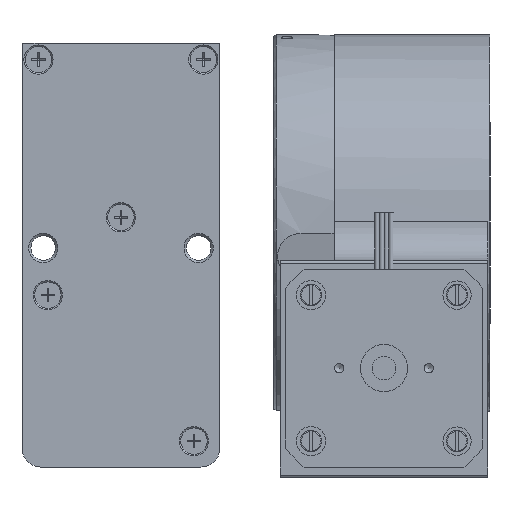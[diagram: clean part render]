
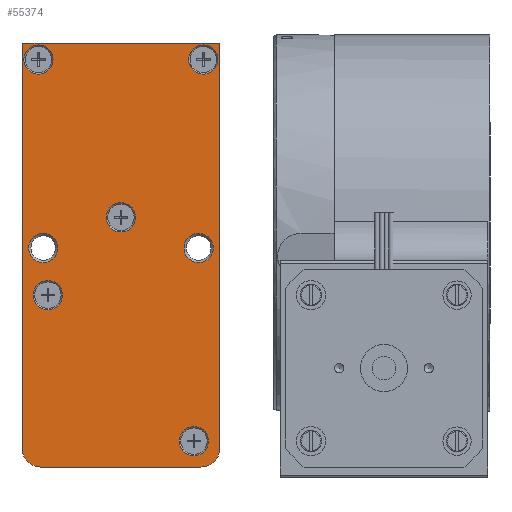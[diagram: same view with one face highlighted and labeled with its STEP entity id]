
A CAD part, left-side view. The second image highlights one B-rep face of the part: STEP entity #55374.
In plain terms, the highlighted planar face has unit normal (-1, 0, 0) as drawn and (0, -1, 0) by its records, which use the part's own axes.
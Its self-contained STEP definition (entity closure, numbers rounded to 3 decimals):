
#2351 = EDGE_LOOP ( 'NONE', ( #40019 ) ) ;
#2364 = CARTESIAN_POINT ( 'NONE',  ( 0., 0., 45. ) ) ;
#2436 = CIRCLE ( 'NONE', #57269, 4. ) ;
#2952 = CARTESIAN_POINT ( 'NONE',  ( -20.9, 0., 44.9 ) ) ;
#3313 = VERTEX_POINT ( 'NONE', #107443 ) ;
#6041 = EDGE_CURVE ( 'NONE', #103560, #49208, #2436, .T. ) ;
#7898 = DIRECTION ( 'NONE',  ( -1., 0., 0. ) ) ;
#8783 = CIRCLE ( 'NONE', #47772, 4. ) ;
#9140 = AXIS2_PLACEMENT_3D ( 'NONE', #106363, #81313, #30176 ) ;
#10581 = DIRECTION ( 'NONE',  ( 0., -1., 0. ) ) ;
#11518 = AXIS2_PLACEMENT_3D ( 'NONE', #64018, #70720, #45715 ) ;
#12540 = VERTEX_POINT ( 'NONE', #108015 ) ;
#13465 = ORIENTED_EDGE ( 'NONE', *, *, #47081, .F. ) ;
#13867 = VECTOR ( 'NONE', #104504, 1000. ) ;
#15288 = FACE_BOUND ( 'NONE', #2351, .T. ) ;
#16405 = DIRECTION ( 'NONE',  ( 0., 1., 0. ) ) ;
#16548 = EDGE_CURVE ( 'NONE', #73658, #103560, #101752, .T. ) ;
#16938 = DIRECTION ( 'NONE',  ( 0., 0., -1. ) ) ;
#16999 = CIRCLE ( 'NONE', #48955, 3.1 ) ;
#18026 = CIRCLE ( 'NONE', #103160, 3.1 ) ;
#18536 = VERTEX_POINT ( 'NONE', #87086 ) ;
#18876 = CARTESIAN_POINT ( 'NONE',  ( -15.5, 0., -5.4 ) ) ;
#19089 = VECTOR ( 'NONE', #100545, 1000. ) ;
#20657 = EDGE_CURVE ( 'NONE', #18536, #27279, #45075, .T. ) ;
#22963 = FACE_BOUND ( 'NONE', #46596, .T. ) ;
#23747 = CARTESIAN_POINT ( 'NONE',  ( 16.5, 0., 4.6 ) ) ;
#23809 = CIRCLE ( 'NONE', #11518, 3.1 ) ;
#23932 = CARTESIAN_POINT ( 'NONE',  ( 0., 0., 11.1 ) ) ;
#24075 = VERTEX_POINT ( 'NONE', #58550 ) ;
#24577 = EDGE_LOOP ( 'NONE', ( #47777 ) ) ;
#25843 = EDGE_CURVE ( 'NONE', #34945, #34945, #67508, .T. ) ;
#27227 = ORIENTED_EDGE ( 'NONE', *, *, #54404, .F. ) ;
#27279 = VERTEX_POINT ( 'NONE', #40096 ) ;
#28029 = CARTESIAN_POINT ( 'NONE',  ( -17., 0., -41. ) ) ;
#29123 = DIRECTION ( 'NONE',  ( 0., 1., 0. ) ) ;
#30176 = DIRECTION ( 'NONE',  ( 0., 0., 1. ) ) ;
#30732 = FACE_BOUND ( 'NONE', #47417, .T. ) ;
#30940 = EDGE_CURVE ( 'NONE', #64076, #3313, #83248, .T. ) ;
#31381 = ORIENTED_EDGE ( 'NONE', *, *, #81159, .F. ) ;
#31879 = LINE ( 'NONE', #79327, #62344 ) ;
#31934 = CARTESIAN_POINT ( 'NONE',  ( -16.5, 0., 1.5 ) ) ;
#32573 = VERTEX_POINT ( 'NONE', #23747 ) ;
#33861 = VERTEX_POINT ( 'NONE', #23932 ) ;
#34880 = DIRECTION ( 'NONE',  ( 0., 0., 1. ) ) ;
#34945 = VERTEX_POINT ( 'NONE', #18876 ) ;
#36106 = DIRECTION ( 'NONE',  ( 0., -1., 0. ) ) ;
#36945 = EDGE_CURVE ( 'NONE', #83593, #83593, #94728, .T. ) ;
#37352 = CARTESIAN_POINT ( 'NONE',  ( -21., 0., 0. ) ) ;
#37548 = ORIENTED_EDGE ( 'NONE', *, *, #88903, .F. ) ;
#39178 = VERTEX_POINT ( 'NONE', #76374 ) ;
#39659 = FACE_BOUND ( 'NONE', #51392, .T. ) ;
#40019 = ORIENTED_EDGE ( 'NONE', *, *, #25843, .F. ) ;
#40096 = CARTESIAN_POINT ( 'NONE',  ( -20.8, 0., 45. ) ) ;
#40775 = EDGE_CURVE ( 'NONE', #78046, #78046, #16999, .T. ) ;
#41354 = CARTESIAN_POINT ( 'NONE',  ( 17., 0., -45. ) ) ;
#42063 = AXIS2_PLACEMENT_3D ( 'NONE', #60009, #67768, #34880 ) ;
#42467 = CARTESIAN_POINT ( 'NONE',  ( 17., 0., -41. ) ) ;
#42817 = DIRECTION ( 'NONE',  ( 1., 0., 0. ) ) ;
#45075 = LINE ( 'NONE', #2952, #13867 ) ;
#45189 = VECTOR ( 'NONE', #42817, 1000. ) ;
#45715 = DIRECTION ( 'NONE',  ( 0., 0., 1. ) ) ;
#46596 = EDGE_LOOP ( 'NONE', ( #13465 ) ) ;
#47049 = DIRECTION ( 'NONE',  ( 0., -1., 0. ) ) ;
#47081 = EDGE_CURVE ( 'NONE', #12540, #12540, #91678, .T. ) ;
#47417 = EDGE_LOOP ( 'NONE', ( #31381 ) ) ;
#47772 = AXIS2_PLACEMENT_3D ( 'NONE', #42467, #16405, #16938 ) ;
#47777 = ORIENTED_EDGE ( 'NONE', *, *, #40775, .F. ) ;
#48955 = AXIS2_PLACEMENT_3D ( 'NONE', #61201, #36106, #68974 ) ;
#48993 = EDGE_LOOP ( 'NONE', ( #27227 ) ) ;
#49208 = VERTEX_POINT ( 'NONE', #79930 ) ;
#50162 = DIRECTION ( 'NONE',  ( 0., -1., 0. ) ) ;
#51175 = EDGE_LOOP ( 'NONE', ( #59814, #96264, #102925, #95637, #62176, #65449, #37548, #62457 ) ) ;
#51392 = EDGE_LOOP ( 'NONE', ( #94029 ) ) ;
#54404 = EDGE_CURVE ( 'NONE', #24075, #24075, #18026, .T. ) ;
#54673 = ORIENTED_EDGE ( 'NONE', *, *, #36945, .F. ) ;
#55261 = FACE_BOUND ( 'NONE', #24577, .T. ) ;
#55374 = ADVANCED_FACE ( 'NONE', ( #65258, #30732, #39659, #22963, #15288, #55261, #73542, #55824 ), #99139, .F. ) ;
#55824 = FACE_OUTER_BOUND ( 'NONE', #51175, .T. ) ;
#57200 = CARTESIAN_POINT ( 'NONE',  ( 21., 0., 0. ) ) ;
#57269 = AXIS2_PLACEMENT_3D ( 'NONE', #28029, #29123, #63092 ) ;
#58550 = CARTESIAN_POINT ( 'NONE',  ( -16.5, 0., 4.6 ) ) ;
#59814 = ORIENTED_EDGE ( 'NONE', *, *, #16548, .F. ) ;
#60009 = CARTESIAN_POINT ( 'NONE',  ( 15.5, 0., -39.5 ) ) ;
#60047 = DIRECTION ( 'NONE',  ( 0., 0., 1. ) ) ;
#61201 = CARTESIAN_POINT ( 'NONE',  ( -17.5, 0., 41.5 ) ) ;
#62176 = ORIENTED_EDGE ( 'NONE', *, *, #94128, .F. ) ;
#62344 = VECTOR ( 'NONE', #65842, 1000. ) ;
#62457 = ORIENTED_EDGE ( 'NONE', *, *, #6041, .F. ) ;
#63092 = DIRECTION ( 'NONE',  ( 0., 0., -1. ) ) ;
#64018 = CARTESIAN_POINT ( 'NONE',  ( 0., 0., 8. ) ) ;
#64076 = VERTEX_POINT ( 'NONE', #74694 ) ;
#65258 = FACE_BOUND ( 'NONE', #48993, .T. ) ;
#65449 = ORIENTED_EDGE ( 'NONE', *, *, #20657, .F. ) ;
#65842 = DIRECTION ( 'NONE',  ( 0.707, 0., -0.707 ) ) ;
#67508 = CIRCLE ( 'NONE', #90472, 3.1 ) ;
#67768 = DIRECTION ( 'NONE',  ( 0., -1., 0. ) ) ;
#68382 = LINE ( 'NONE', #2364, #45189 ) ;
#68652 = CARTESIAN_POINT ( 'NONE',  ( 17.5, 0., 44.6 ) ) ;
#68974 = DIRECTION ( 'NONE',  ( 0., 0., 1. ) ) ;
#69046 = EDGE_LOOP ( 'NONE', ( #54673 ) ) ;
#70720 = DIRECTION ( 'NONE',  ( 0., -1., 0. ) ) ;
#71251 = DIRECTION ( 'NONE',  ( 0., 0., 1. ) ) ;
#71483 = EDGE_CURVE ( 'NONE', #33861, #33861, #23809, .T. ) ;
#72538 = CARTESIAN_POINT ( 'NONE',  ( -17., 0., -45. ) ) ;
#73542 = FACE_BOUND ( 'NONE', #69046, .T. ) ;
#73658 = VERTEX_POINT ( 'NONE', #41354 ) ;
#74233 = DIRECTION ( 'NONE',  ( 0., 0., 1. ) ) ;
#74694 = CARTESIAN_POINT ( 'NONE',  ( 21., 0., 44.8 ) ) ;
#75198 = AXIS2_PLACEMENT_3D ( 'NONE', #93459, #50162, #91815 ) ;
#76374 = CARTESIAN_POINT ( 'NONE',  ( 20.8, 0., 45. ) ) ;
#78046 = VERTEX_POINT ( 'NONE', #96363 ) ;
#79327 = CARTESIAN_POINT ( 'NONE',  ( 20.9, 0., 44.9 ) ) ;
#79569 = LINE ( 'NONE', #37352, #98560 ) ;
#79930 = CARTESIAN_POINT ( 'NONE',  ( -21., 0., -41. ) ) ;
#81159 = EDGE_CURVE ( 'NONE', #32573, #32573, #100596, .T. ) ;
#81206 = VECTOR ( 'NONE', #7898, 1000. ) ;
#81313 = DIRECTION ( 'NONE',  ( 0., 1., 0. ) ) ;
#82742 = AXIS2_PLACEMENT_3D ( 'NONE', #93886, #10581, #60047 ) ;
#83248 = LINE ( 'NONE', #57200, #19089 ) ;
#83501 = EDGE_CURVE ( 'NONE', #3313, #73658, #8783, .T. ) ;
#83593 = VERTEX_POINT ( 'NONE', #68652 ) ;
#85386 = EDGE_CURVE ( 'NONE', #39178, #64076, #31879, .T. ) ;
#87086 = CARTESIAN_POINT ( 'NONE',  ( -21., 0., 44.8 ) ) ;
#88903 = EDGE_CURVE ( 'NONE', #49208, #18536, #79569, .T. ) ;
#90472 = AXIS2_PLACEMENT_3D ( 'NONE', #98144, #107051, #74233 ) ;
#91435 = DIRECTION ( 'NONE',  ( 0., 0., 1. ) ) ;
#91678 = CIRCLE ( 'NONE', #42063, 3.1 ) ;
#91815 = DIRECTION ( 'NONE',  ( 0., 0., 1. ) ) ;
#93459 = CARTESIAN_POINT ( 'NONE',  ( 17.5, 0., 41.5 ) ) ;
#93886 = CARTESIAN_POINT ( 'NONE',  ( 16.5, 0., 1.5 ) ) ;
#94029 = ORIENTED_EDGE ( 'NONE', *, *, #71483, .F. ) ;
#94128 = EDGE_CURVE ( 'NONE', #27279, #39178, #68382, .T. ) ;
#94728 = CIRCLE ( 'NONE', #75198, 3.1 ) ;
#95637 = ORIENTED_EDGE ( 'NONE', *, *, #85386, .F. ) ;
#96264 = ORIENTED_EDGE ( 'NONE', *, *, #83501, .F. ) ;
#96363 = CARTESIAN_POINT ( 'NONE',  ( -17.5, 0., 44.6 ) ) ;
#98144 = CARTESIAN_POINT ( 'NONE',  ( -15.5, 0., -8.5 ) ) ;
#98560 = VECTOR ( 'NONE', #71251, 1000. ) ;
#99139 = PLANE ( 'NONE',  #9140 ) ;
#100545 = DIRECTION ( 'NONE',  ( 0., 0., -1. ) ) ;
#100596 = CIRCLE ( 'NONE', #82742, 3.1 ) ;
#101191 = CARTESIAN_POINT ( 'NONE',  ( 0., 0., -45. ) ) ;
#101752 = LINE ( 'NONE', #101191, #81206 ) ;
#102925 = ORIENTED_EDGE ( 'NONE', *, *, #30940, .F. ) ;
#103160 = AXIS2_PLACEMENT_3D ( 'NONE', #31934, #47049, #91435 ) ;
#103560 = VERTEX_POINT ( 'NONE', #72538 ) ;
#104504 = DIRECTION ( 'NONE',  ( 0.707, 0., 0.707 ) ) ;
#106363 = CARTESIAN_POINT ( 'NONE',  ( 0., 0., 0. ) ) ;
#107051 = DIRECTION ( 'NONE',  ( 0., -1., 0. ) ) ;
#107443 = CARTESIAN_POINT ( 'NONE',  ( 21., 0., -41. ) ) ;
#108015 = CARTESIAN_POINT ( 'NONE',  ( 15.5, 0., -36.4 ) ) ;
